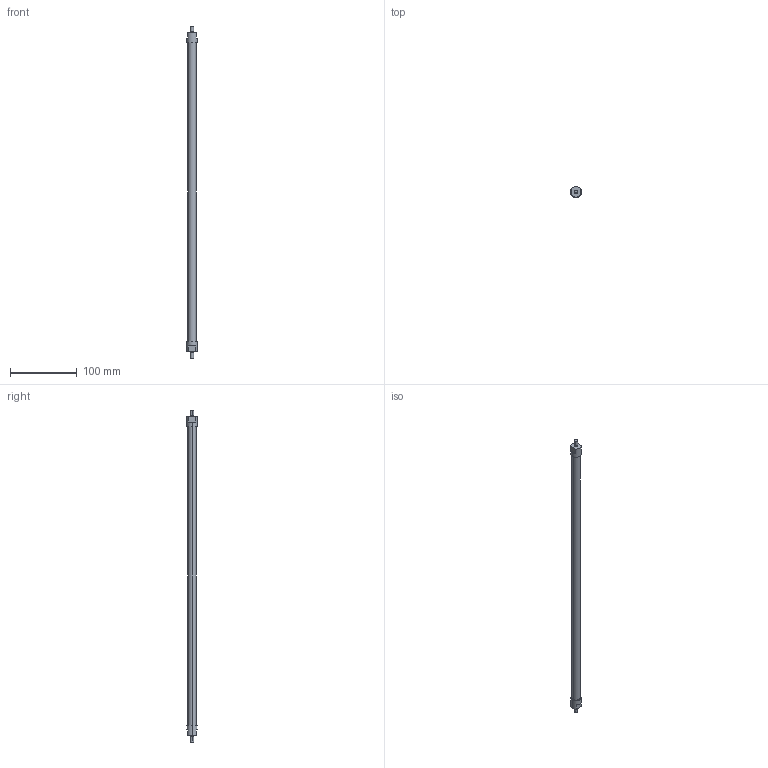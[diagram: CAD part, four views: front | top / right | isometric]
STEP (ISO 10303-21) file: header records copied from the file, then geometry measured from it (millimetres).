
FILE_DESCRIPTION(('STEP AP214'),'1');
FILE_NAME('ETT-R025N485.stp','2015-02-04T08:21:36',(' '),(' '),'Spatial InterOp 3D',' ',' ');
FILE_SCHEMA(('automotive_design'));
Length unit declared in the file: metre
Products named in the file (3): 1; 2; 3
Bounding box: 16 x 16 x 496 mm (x, y, z)
Volume: 56401.8 mm3; surface area: 19402.8 mm2
Topology: 1 solids, 7 shells, 30 faces, 81 edges, 63 vertices
Faces by surface type: plane 16, cylinder 14
Entity records: 1295 total; most frequent: DIRECTION 194, CARTESIAN_POINT 177, ORIENTED_EDGE 138, EDGE_CURVE 81, AXIS2_PLACEMENT_3D 80, VERTEX_POINT 63, CIRCLE 47, EDGE_LOOP 36
